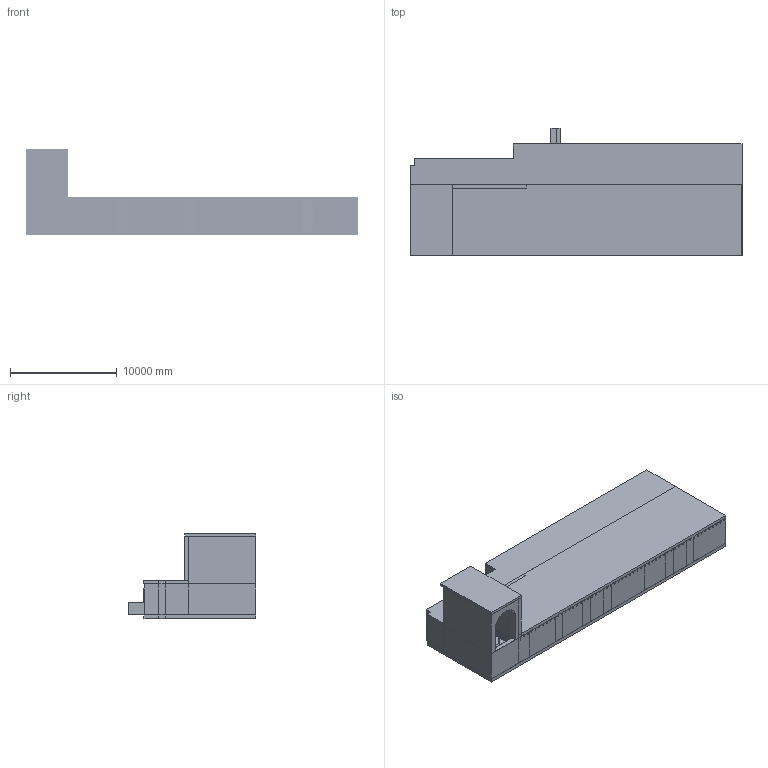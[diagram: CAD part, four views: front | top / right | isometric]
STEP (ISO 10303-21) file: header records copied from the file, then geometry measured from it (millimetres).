
FILE_DESCRIPTION (('STEP'), '1');
FILE_NAME ('\\SrvLUT061\LUT_HOME_Galliker.M$\Dokumente\00 CAD\07 Pläne für Website\3D-Modell UG_Luzerner Theater\3D-Modell UG_Luzerner Theater.stp', '2026-01-14T18:50:44', ('Unknown'), ('Unknown'), 'HarmonyWare STEP v2.1.9', 'Vectorworks', '');
FILE_SCHEMA (('CONFIG_CONTROL_DESIGN'));
Bounding box: 31080.52 x 11955 x 7970 mm (x, y, z)
Volume: 353818481791.5 mm3; surface area: 3039071433.1 mm2
Topology: 307 solids, 535 shells, 2928 faces, 7319 edges, 6621 vertices
Faces by surface type: bspline 2928
Entity records: 82522 total; most frequent: CARTESIAN_POINT 36822, ORIENTED_EDGE 13132, EDGE_CURVE 7319, B_SPLINE_CURVE_WITH_KNOTS 7257, VERTEX_POINT 5226, EDGE_LOOP 2998, FACE_OUTER_BOUND 2928, ADVANCED_FACE 2928
